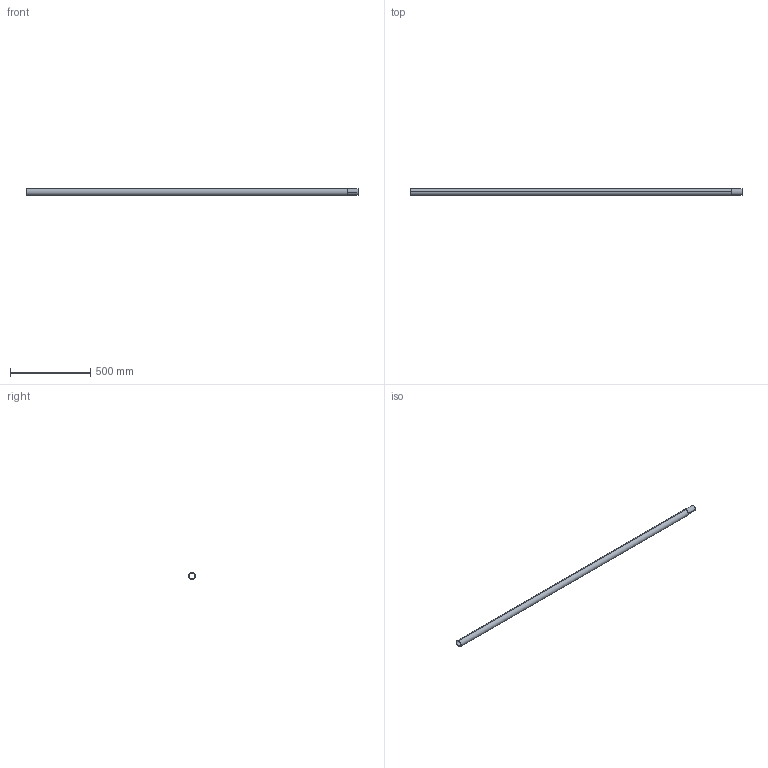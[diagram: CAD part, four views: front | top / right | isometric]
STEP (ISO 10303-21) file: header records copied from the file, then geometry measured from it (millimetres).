
FILE_DESCRIPTION (( 'STEP AP203' ), '1' );
FILE_NAME ('Rostfritt rör Ø42x1,5 L_2000.STEP', '2014-09-26T06:28:40', ( '' ), ( '' ), 'SwSTEP 2.0', 'SolidWorks 2014', '' );
FILE_SCHEMA (( 'CONFIG_CONTROL_DESIGN' ));
Length unit declared in the file: millimetre
Products named in the file (1): Rostfritt rör Ø42x1,5 L_2000
Bounding box: 2064 x 42 x 42 mm (x, y, z)
Volume: 392790.1 mm3; surface area: 524083 mm2
Topology: 1 solids, 1 shells, 14 faces, 32 edges, 20 vertices
Faces by surface type: cylinder 8, cone 4, plane 2
Entity records: 485 total; most frequent: DIRECTION 82, CARTESIAN_POINT 67, ORIENTED_EDGE 64, AXIS2_PLACEMENT_3D 35, EDGE_CURVE 32, CIRCLE 20, VERTEX_POINT 20, EDGE_LOOP 16
